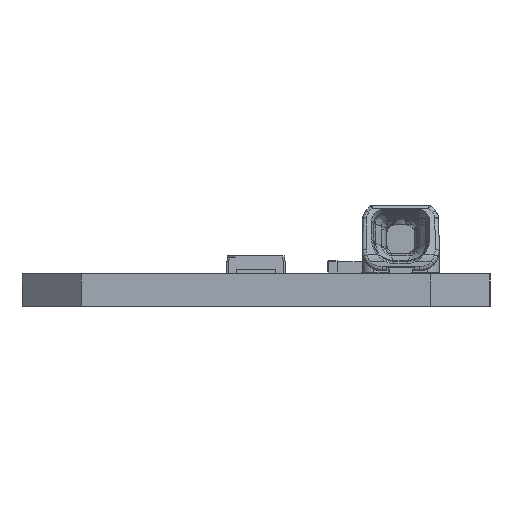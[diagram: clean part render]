
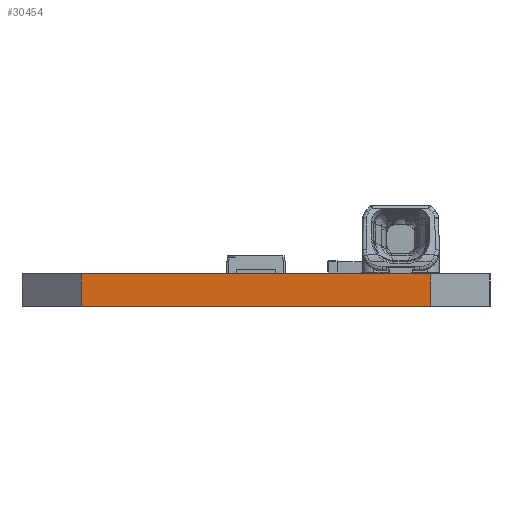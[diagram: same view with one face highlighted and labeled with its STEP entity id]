
A CAD part, left-side view. The second image highlights one B-rep face of the part: STEP entity #30454.
In plain terms, the highlighted planar face has unit normal (-1, 0, 0).
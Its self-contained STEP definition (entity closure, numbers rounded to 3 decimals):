
#943=DIRECTION('',(0.,1.,0.));
#944=VECTOR('',#943,17.6);
#945=CARTESIAN_POINT('',(-69.5,-8.8,0.));
#946=LINE('',#945,#944);
#950=DIRECTION('',(0.,0.,1.));
#951=VECTOR('',#950,1.65);
#952=CARTESIAN_POINT('',(-69.5,8.8,0.));
#953=LINE('',#952,#951);
#957=DIRECTION('',(0.,-1.,0.));
#958=VECTOR('',#957,17.6);
#959=CARTESIAN_POINT('',(-69.5,8.8,1.65));
#960=LINE('',#959,#958);
#964=DIRECTION('',(0.,0.,1.));
#965=VECTOR('',#964,1.65);
#966=CARTESIAN_POINT('',(-69.5,-8.8,0.));
#967=LINE('',#966,#965);
#26088=CARTESIAN_POINT('',(-69.5,-8.8,1.65));
#26089=VERTEX_POINT('',#26088);
#26090=CARTESIAN_POINT('',(-69.5,8.8,1.65));
#26091=VERTEX_POINT('',#26090);
#26289=CARTESIAN_POINT('',(-69.5,8.8,0.));
#26290=VERTEX_POINT('',#26289);
#26291=CARTESIAN_POINT('',(-69.5,-8.8,0.));
#26292=VERTEX_POINT('',#26291);
#30442=CARTESIAN_POINT('',(-69.5,0.,0.825));
#30443=DIRECTION('',(1.,0.,0.));
#30444=DIRECTION('',(0.,0.,1.));
#30445=AXIS2_PLACEMENT_3D('',#30442,#30443,#30444);
#30446=PLANE('',#30445);
#30448=ORIENTED_EDGE('',*,*,#30447,.F.);
#30449=ORIENTED_EDGE('',*,*,#30272,.T.);
#30450=ORIENTED_EDGE('',*,*,#30427,.T.);
#30451=ORIENTED_EDGE('',*,*,#29729,.T.);
#30452=EDGE_LOOP('',(#30448,#30449,#30450,#30451));
#30453=FACE_OUTER_BOUND('',#30452,.F.);
#29729=EDGE_CURVE('',#26091,#26089,#960,.T.);
#30272=EDGE_CURVE('',#26292,#26290,#946,.T.);
#30427=EDGE_CURVE('',#26290,#26091,#953,.T.);
#30447=EDGE_CURVE('',#26292,#26089,#967,.T.);
#30454=ADVANCED_FACE('',(#30453),#30446,.F.);
